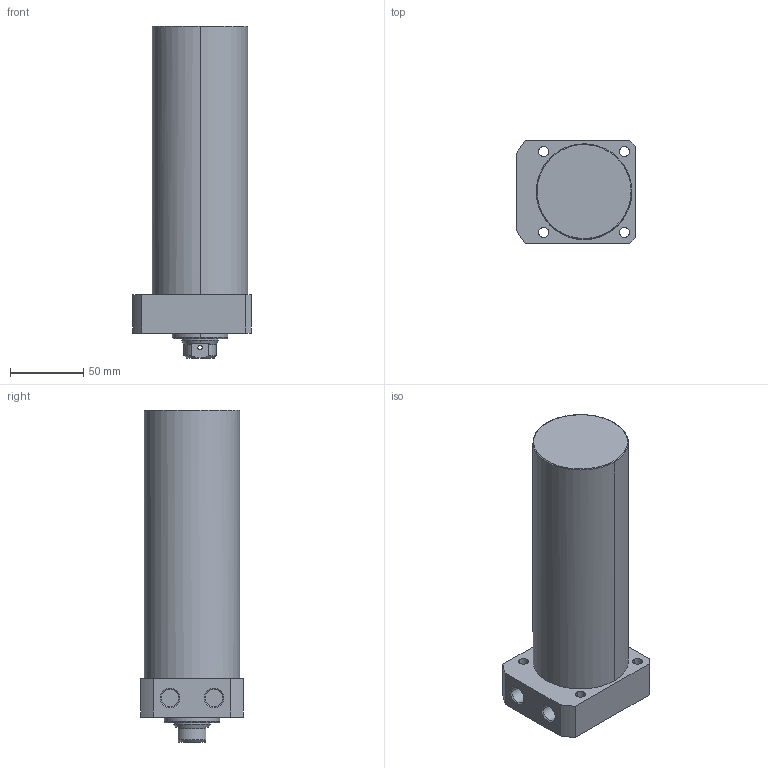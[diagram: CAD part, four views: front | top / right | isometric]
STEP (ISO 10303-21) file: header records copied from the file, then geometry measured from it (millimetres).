
FILE_DESCRIPTION((' '),'2;1');
FILE_NAME( 'TLLR-065CB-150.STEP.stp', '2025-10-24T16:34:58', (' '), ('--- Datakit www.datakit.com---'), ' Datakit CrossCadWare V2024.1 Dec 21 2023', 'Mastercam 2025', ' ');
FILE_SCHEMA(('AUTOMOTIVE_DESIGN { 1 0 10303 214 1 1 1 1 }'));
Length unit declared in the file: millimetre
Products named in the file (1): TLLR-065CB-150
Bounding box: 81 x 70 x 226 mm (x, y, z)
Volume: 751136.8 mm3; surface area: 61839.6 mm2
Topology: 1 solids, 1 shells, 67 faces, 197 edges, 136 vertices
Faces by surface type: cylinder 32, plane 19, cone 14, torus 2
Entity records: 3278 total; most frequent: CARTESIAN_POINT 1359, DIRECTION 426, ORIENTED_EDGE 390, EDGE_CURVE 195, AXIS2_PLACEMENT_3D 179, VERTEX_POINT 136, CIRCLE 111, EDGE_LOOP 85
